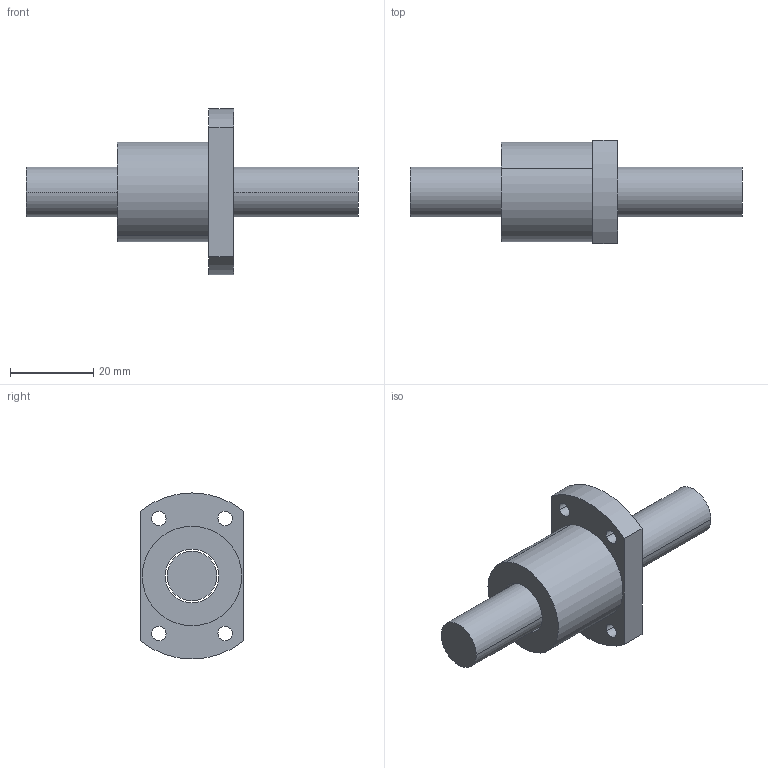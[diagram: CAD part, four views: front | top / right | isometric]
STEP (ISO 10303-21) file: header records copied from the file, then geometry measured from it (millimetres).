
FILE_DESCRIPTION(('CATIA V5 STEP Exchange'),'2;1');
FILE_NAME('C:\Users\aa\Documents\이댈\볼스크류\SFK\완성품\SFK1204D.stp','2019-07-24T04:55:40+00:00',('none'),('none'),'CATIA Version 5 Release 20 SP 7 (IN-10)','CATIA V5 STEP AP203','none');
FILE_SCHEMA(('CONFIG_CONTROL_DESIGN'));
Length unit declared in the file: millimetre
Products named in the file (1): SFK1204D
Bounding box: 80 x 25 x 40 mm (x, y, z)
Volume: 20635.4 mm3; surface area: 8525.5 mm2
Topology: 2 solids, 2 shells, 23 faces, 54 edges, 36 vertices
Faces by surface type: cylinder 16, plane 7
Entity records: 668 total; most frequent: ORIENTED_EDGE 108, CARTESIAN_POINT 106, DIRECTION 84, EDGE_CURVE 54, AXIS2_PLACEMENT_3D 48, VERTEX_POINT 36, EDGE_LOOP 34, CIRCLE 32
